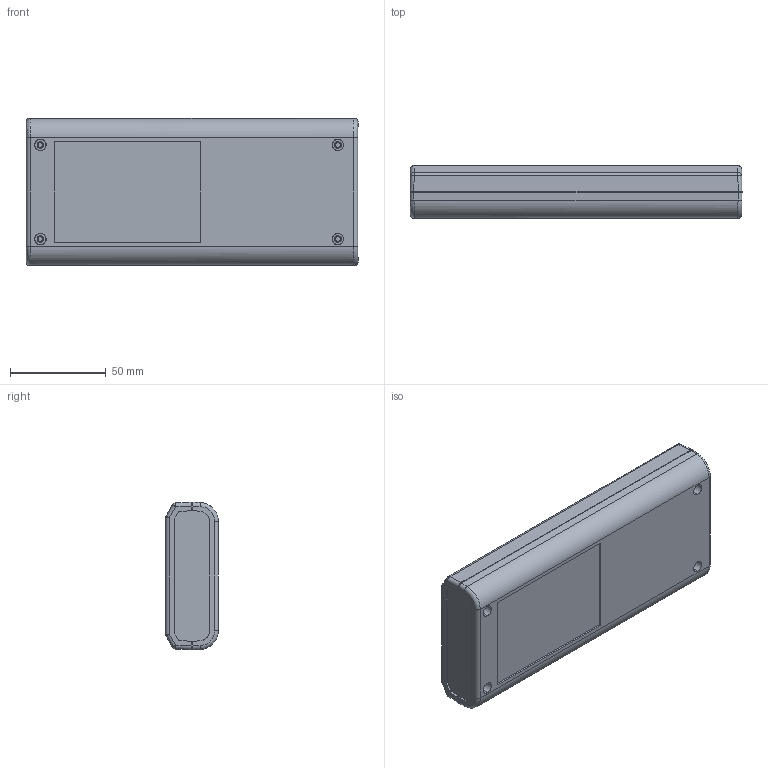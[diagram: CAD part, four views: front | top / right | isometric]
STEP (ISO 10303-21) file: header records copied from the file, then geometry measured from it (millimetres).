
FILE_DESCRIPTION (( 'STEP AP203' ), '1' );
FILE_NAME ('HH-088.STEP', '2017-11-20T06:25:53', ( '' ), ( '' ), 'SwSTEP 2.0', 'SolidWorks 2015', '' );
FILE_SCHEMA (( 'CONFIG_CONTROL_DESIGN' ));
Length unit declared in the file: millimetre
Products named in the file (4): HH-088-P-1; HH-088-P-2; HH-088-P-3; HH-088
Assembly tree (4 placements, depth 2):
  HH-088
    HH-088-P-1
    HH-088-P-2
    HH-088-P-3  x2
Bounding box: 173 x 27.5 x 77 mm (x, y, z)
Volume: 89580.4 mm3; surface area: 79985.8 mm2
Topology: 4 solids, 4 shells, 322 faces, 800 edges, 520 vertices
Faces by surface type: plane 174, cylinder 68, cone 60, bspline 12, sphere 8
Entity records: 9884 total; most frequent: CARTESIAN_POINT 2083, ORIENTED_EDGE 1532, DIRECTION 1520, EDGE_CURVE 766, AXIS2_PLACEMENT_3D 521, VERTEX_POINT 500, LINE 478, VECTOR 478
